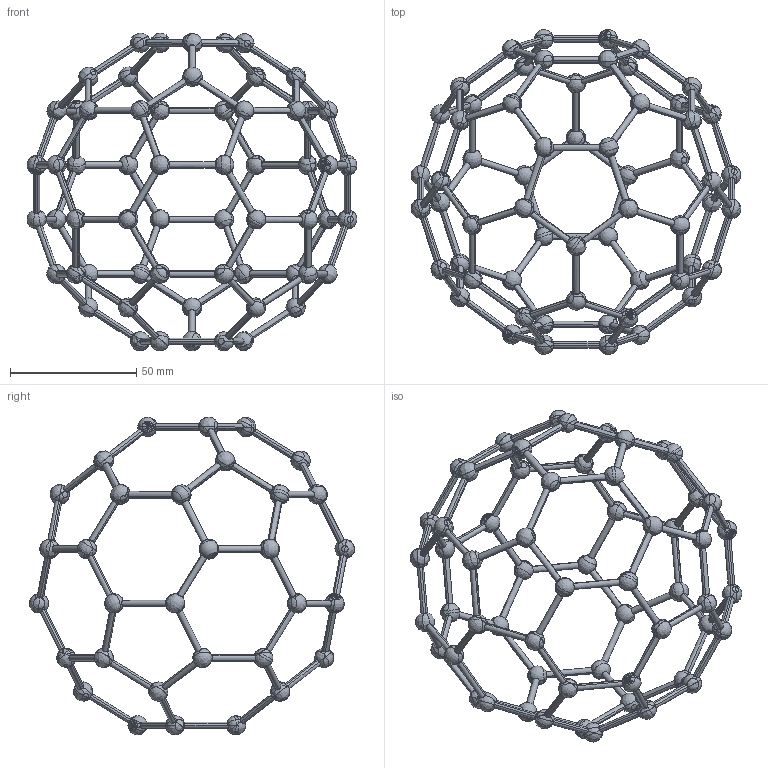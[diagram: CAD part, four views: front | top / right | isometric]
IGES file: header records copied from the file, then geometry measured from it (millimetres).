
Start section: SolidWorks IGES FILE using analytic representation for surfaces
Global section: file name: Y:\CONTENTCENTRAL\C-63 The Buckyball\cache\CDEFAU0607200321261.igs; native system: SolidWorks 2003 by SolidWorks Corporation; preprocessor: Version 5.3; author: partstream; date: 030607.213411; units: inch
Bounding box: 130.81 x 128.92 x 125.98 mm (x, y, z)
Surface area: 52919.8 mm2 (no closed solid volume)
Topology: 0 solids, 0 shells, 676 faces, 7994 edges, 7975 vertices
Faces by surface type: revolution 676
